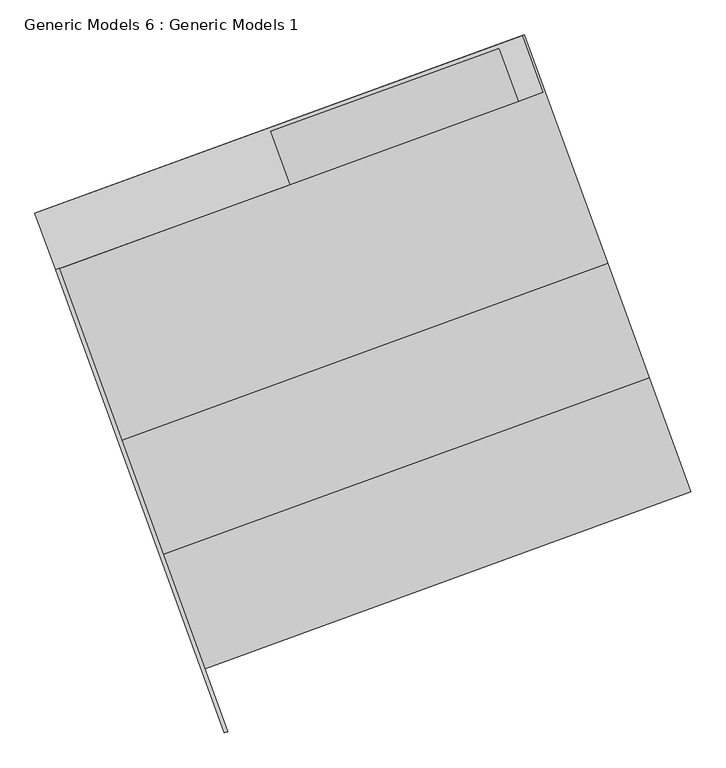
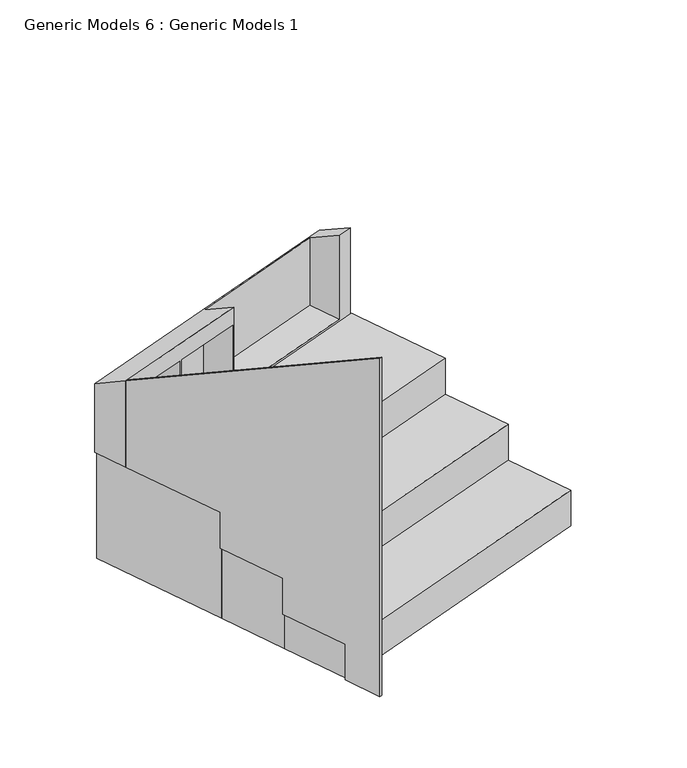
"""IFC4 building model written with IfcOpenShell, lengths in millimetres: proxy geometry, Generic Models 6 : Generic Models 1."""

from ifc_helpers import new_model, si_unit, frame, origin, place, context, project, spatial, polyline, outline, extrude, faceted_brep, source, transform, mapped, element, save


def generic_models_6_generic_models_1_03c223d9(model_context):
    return source(origin(), model_context, "Body", "SolidModel", [
        extrude(outline(polyline([(0.0, 0.0), (0.0, -3029.9999968), (-2432.5933356, -1732.6168845), (-2432.5933356, -960.0), (-1530.6825137, -960.0), (-1530.6825137, -640.0), (-930.6825137, -640.0), (-930.6825137, -320.0), (-330.6825137, -320.0), (-330.6825137, 0.0), (0.0, 0.0)])), frame((35503.1596855, 9400.4036481, 2500.0), z_axis=(0.9396926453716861, 0.3420200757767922, 0.0), x_axis=(0.3420200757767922, -0.9396926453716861, 0.0)), (0.0, 0.0, 1.0), 20.0),
        faceted_brep([(37076.6297034, 12561.8114605, 3460.0), (36974.6766469, 12841.9252437, 3460.0), (36974.6766469, 12841.9252437, 4073.6350963), (37076.6297034, 12561.8114605, 4232.6168851), (34671.1639285, 11686.2937147, 3460.0), (34671.1639285, 11686.2937147, 4232.6168851), (34569.210872, 11966.4074979, 4073.6350963), (34569.210872, 11966.4074979, 3460.0), (35826.9858801, 12106.9784071, 4232.6168851), (35731.2202953, 12370.092189, 4083.283638), (36860.696082, 12781.1877557, 4083.283592), (36956.4616964, 12518.0738926, 4232.6168851), (36956.4616964, 12518.0738926, 3480.0), (35826.9858801, 12106.9784071, 3480.0), (35249.0749032, 11896.6360605, 4080.0), (35249.0749032, 11896.6360605, 3480.0), (34708.7516321, 11699.974517, 3480.0), (34708.7516321, 11699.974517, 4080.0), (35814.2624527, 12102.3474593, 3480.0), (35267.8687561, 11903.476462, 3480.0), (35267.8687561, 11903.476462, 4080.0), (35814.2624527, 12102.3474593, 4080.0), (35153.3093335, 12159.7498009, 4080.0), (34612.9860766, 11963.0882184, 4080.0), (34612.9860766, 11963.0882184, 3480.0), (35153.3093335, 12159.7498009, 3480.0), (35718.4968682, 12365.4612403, 4080.0), (35172.1031859, 12166.5902037, 4080.0), (35172.1031859, 12166.5902037, 3480.0), (35718.4968682, 12365.4612403, 3480.0), (35731.2202953, 12370.092189, 3480.0), (36860.696082, 12781.1877557, 3480.0)], [[[0, 1, 2, 3]], [[4, 5, 6, 7]], [[1, 0, 4, 7]], [[2, 1, 7, 6]], [[3, 2, 6, 5, 8, 9, 10, 11]], [[0, 3, 11, 12, 13, 8, 5, 4], [14, 15, 16, 17], [18, 19, 20, 21]], [[22, 23, 24, 25]], [[26, 27, 28, 29]], [[30, 31, 10, 9]], [[22, 25, 15, 14]], [[25, 24, 16, 15]], [[24, 23, 17, 16]], [[23, 22, 14, 17]], [[29, 28, 19, 18]], [[28, 27, 20, 19]], [[27, 26, 21, 20]], [[26, 29, 18, 21]], [[31, 12, 11, 10]], [[31, 30, 13, 12]], [[13, 30, 9, 8]]]),
        extrude(outline(polyline([(35408.8534998, 9717.9839844), (35203.6414138, 10281.7995569), (37600.699089, 11154.2572005), (37805.911175, 10590.441628), (35408.8534998, 9717.9839844)])), frame((0.0, 0.0, 2500.0), z_axis=(0.0, 0.0, 1.0), x_axis=(1.0, 0.0, 0.0)), (0.0, 0.0, 1.0), 320.0),
        extrude(outline(polyline([(35203.6414138, 10281.7995569), (34998.4293278, 10845.6151294), (37395.4870097, 11718.0727754), (37600.6990957, 11154.2572029), (35203.6414138, 10281.7995569)])), frame((0.0, 0.0, 2500.0), z_axis=(0.0, 0.0, 1.0), x_axis=(1.0, 0.0, 0.0)), (0.0, 0.0, 1.0), 640.0),
        extrude(outline(polyline([(34998.4293278, 10845.6151294), (34588.0051552, 11973.2462759), (36985.0629723, 12845.7039711), (37395.4871448, 11718.0728246), (34998.4293278, 10845.6151294)])), frame((0.0, 0.0, 2500.0), z_axis=(0.0, 0.0, 1.0), x_axis=(1.0, 0.0, 0.0)), (0.0, 0.0, 1.0), 960.0),
    ])


if __name__ == "__main__":
    model = new_model("IFC4")
    model_context = context("Model", 3, world=origin())
    ifc_project = project(units=[si_unit("LENGTHUNIT", "METRE", prefix="MILLI")], contexts=[model_context])
    site = spatial("IfcSite", under=ifc_project)
    building = spatial("IfcBuilding", under=site)
    placement = place(None, origin())
    generic_models_6_generic_models_1_shape = generic_models_6_generic_models_1_03c223d9(model_context)
    element("IfcBuildingElementProxy", 1, Name="Generic Models 6 : Generic Models 1", ObjectType="Generic Models 6 : Generic Models 1", at=placement, inside=building, context=model_context, shape_type="MappedRepresentation", body=[
        mapped(generic_models_6_generic_models_1_shape, transform((0.0, 0.0, 0.0), x_axis=(1.0, 0.0, 0.0), y_axis=(0.0, 1.0, 0.0), z_axis=(0.0, 0.0, 1.0))),
    ])
    save(model, "model.ifc")
